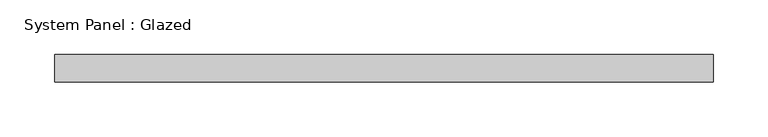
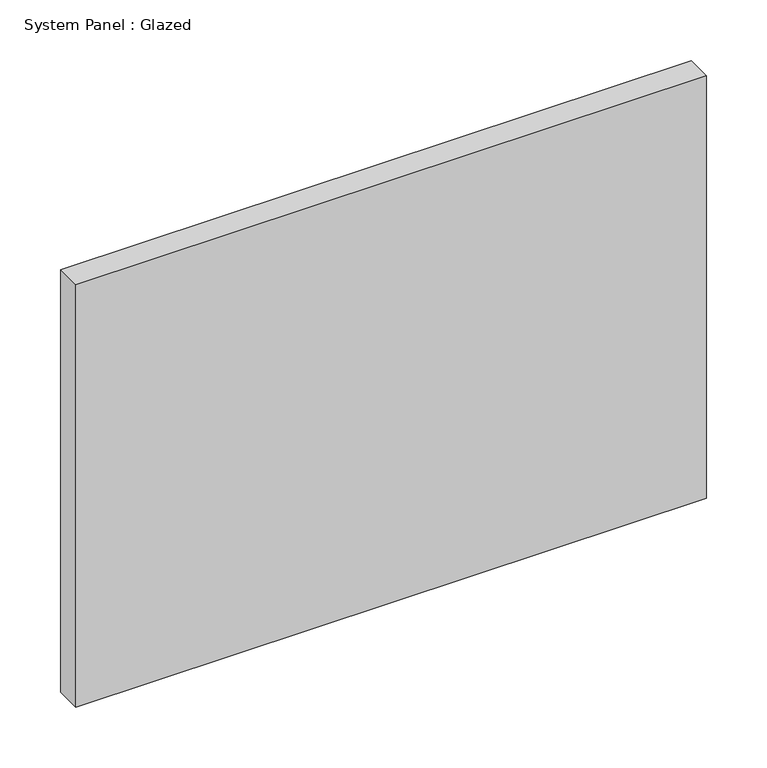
"""IFC4 building model written with IfcOpenShell, lengths in millimetres: plate geometry, System Panel : Glazed."""

from ifc_helpers import new_model, si_unit, origin, origin_with_axes, place, context, project, spatial, polyline, outline, extrude, source, transform, mapped, element, save


def system_panel_glazed_fdc58650(model_context):
    return source(origin(), model_context, "Body", "SweptSolid", [
        extrude(outline(polyline([(299.9999999, 24.5), (-299.9999999, 24.5), (-299.9999999, 49.5), (299.9999999, 49.5), (299.9999999, 24.5)])), origin_with_axes(), (0.0, 0.0, 1.0), 425.0),
    ])


if __name__ == "__main__":
    model = new_model("IFC4")
    model_context = context("Model", 3, world=origin())
    ifc_project = project(units=[si_unit("LENGTHUNIT", "METRE", prefix="MILLI")], contexts=[model_context])
    site = spatial("IfcSite", under=ifc_project)
    building = spatial("IfcBuilding", under=site)
    placement = place(None, origin())
    system_panel_glazed_shape = system_panel_glazed_fdc58650(model_context)
    element("IfcPlate", 1, ObjectType="System Panel : Glazed", at=placement, inside=building, context=model_context, shape_type="MappedRepresentation", body=[
        mapped(system_panel_glazed_shape, transform((0.0, 0.0, 0.0), x_axis=(1.0, 0.0, 0.0), y_axis=(0.0, 1.0, 0.0), z_axis=(0.0, 0.0, 1.0))),
    ])
    save(model, "model.ifc")
